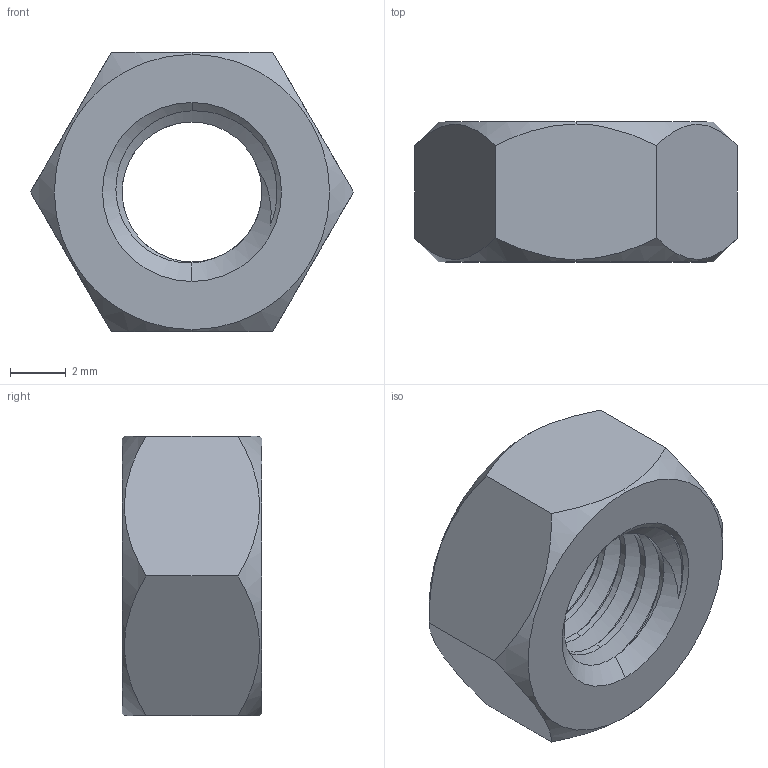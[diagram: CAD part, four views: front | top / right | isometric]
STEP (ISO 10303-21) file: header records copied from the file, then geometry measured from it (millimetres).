
FILE_DESCRIPTION (( 'STEP AP203' ), '1' );
FILE_NAME ('TAN-304RN-M6.STEP', '2026-08-20T13:32:56', ( '' ), ( '' ), 'SwSTEP 2.0', 'SolidWorks 2020', '' );
FILE_SCHEMA (( 'CONFIG_CONTROL_DESIGN' ));
Length unit declared in the file: millimetre
Products named in the file (1): TAN-304RN-M6
Bounding box: 11.55 x 5 x 10 mm (x, y, z)
Volume: 306 mm3; surface area: 410 mm2
Topology: 1 solids, 1 shells, 29 faces, 80 edges, 53 vertices
Faces by surface type: cone 9, cylinder 9, plane 8, bspline 3
Entity records: 2289 total; most frequent: CARTESIAN_POINT 1577, ORIENTED_EDGE 160, DIRECTION 99, EDGE_CURVE 80, VERTEX_POINT 53, AXIS2_PLACEMENT_3D 38, EDGE_LOOP 31, FACE_OUTER_BOUND 29
